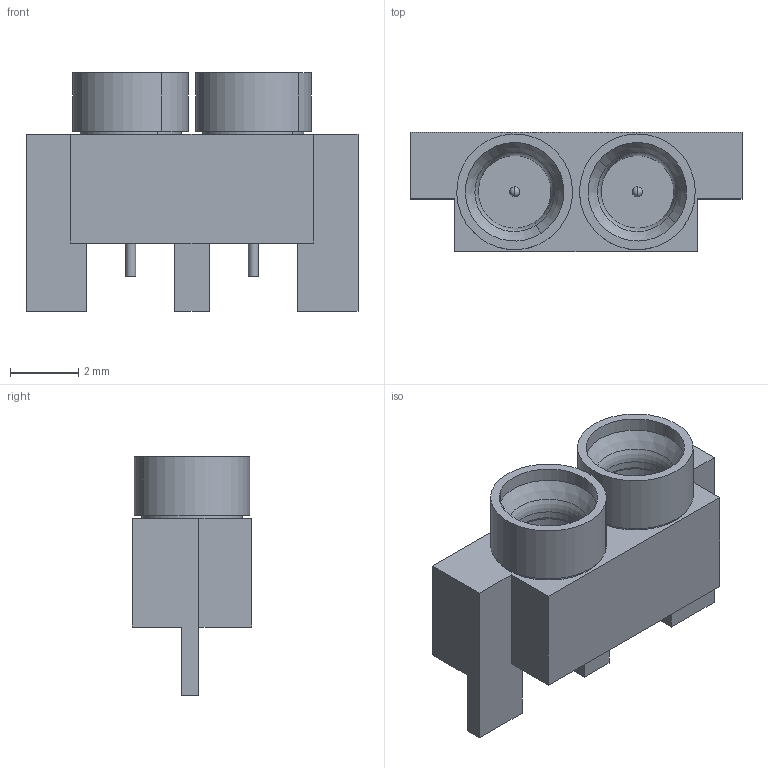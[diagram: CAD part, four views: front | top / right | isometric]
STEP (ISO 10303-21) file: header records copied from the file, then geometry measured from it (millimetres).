
FILE_DESCRIPTION (( 'STEP AP214' ), '1' );
FILE_NAME ('3211-60087.STEP', '2015-05-11T13:30:48', ( 'image' ), ( '' ), 'SwSTEP 2.0', 'SolidWorks 2014', '' );
FILE_SCHEMA (( 'AUTOMOTIVE_DESIGN' ));
Length unit declared in the file: inch
Products named in the file (1): 3211-60087
Bounding box: 9.75 x 3.51 x 7.01 mm (x, y, z)
Volume: 112.9 mm3; surface area: 292.7 mm2
Topology: 1 solids, 1 shells, 529 faces, 1474 edges, 892 vertices
Faces by surface type: plane 271, cone 134, cylinder 116, sphere 4, torus 4
Entity records: 25298 total; most frequent: CARTESIAN_POINT 4932, ORIENTED_EDGE 2940, DIRECTION 2752, EDGE_CURVE 1470, AXIS2_PLACEMENT_3D 1072, VERTEX_POINT 892, VECTOR 608, LINE 608
